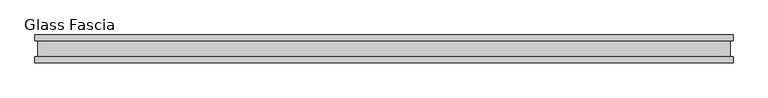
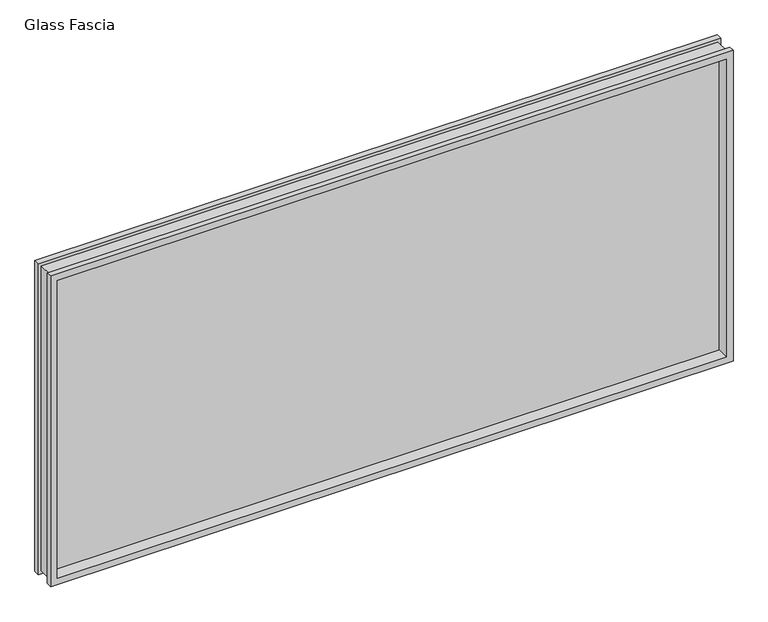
"""IFC4 building model written with IfcOpenShell, lengths in millimetres: proxy geometry, Panel-Fascia-Teknion-Altos-Glass : Glass Fascia."""

from ifc_helpers import new_model, si_unit, frame, origin, place, context, project, spatial, polyline, outline, extrude, faceted_brep, source, transform, mapped, element, save


def glass_fascia_b5f6f7ce(model_context):
    return source(origin(), model_context, "Body", "SolidModel", [
        faceted_brep([(1245.4046, -5.0827449, 1201.5625243), (1245.4046, 5.0827449, 1201.5625243), (1245.4046, 5.0827449, 17.6374757), (1245.4046, -5.0827449, 17.6374757), (1259.8670757, -28.8801202, 1216.025), (1259.8670757, -50.0558594, 1216.025), (1259.8670757, -50.0558594, 3.175), (1259.8670757, -28.8801202, 3.175), (1249.0420758, 28.2698798, 1205.2000001), (1249.0420758, -28.8801202, 1205.2000001), (1249.0420758, -28.8801202, 13.9999999), (1249.0420758, 28.2698798, 13.9999999), (1259.8670757, 50.0558594, 1216.025), (1259.8670757, 28.2698798, 1216.025), (1259.8670757, 28.2698798, 3.175), (1259.8670757, 50.0558594, 3.175), (-1245.4046, 5.0827449, 17.6374757), (-1245.4046, -5.0827449, 17.6374757), (-1259.8670757, -50.0558594, 3.175), (-1259.8670757, -28.8801202, 3.175), (-1249.0420758, -28.8801202, 13.9999999), (-1249.0420758, 28.2698798, 13.9999999), (-1259.8670757, 28.2698798, 3.175), (-1259.8670757, 50.0558594, 3.175), (-1245.4046, 5.0827449, 1201.5625243), (-1245.4046, -5.0827449, 1201.5625243), (-1259.8670757, -50.0558594, 1216.025), (-1259.8670757, -28.8801202, 1216.025), (-1249.0420758, -28.8801202, 1205.2000001), (-1249.0420758, 28.2698798, 1205.2000001), (-1259.8670757, 28.2698798, 1216.025), (-1259.8670757, 50.0558594, 1216.025), (1234.9144089, 50.0558594, 1191.0723332), (-1234.9144089, 50.0558594, 1191.0723332), (-1234.9144089, 50.0558594, 28.1276668), (1234.9144089, 50.0558594, 28.1276668), (1234.9144089, 5.0827449, 28.1276668), (-1234.9144089, 5.0827449, 28.1276668), (-1234.9144089, 5.0827449, 1191.0723332), (1234.9144089, 5.0827449, 1191.0723332), (1234.9144089, -5.0827449, 1191.0723332), (-1234.9144089, -5.0827449, 1191.0723332), (-1234.9144089, -5.0827449, 28.1276668), (1234.9144089, -5.0827449, 28.1276668), (1234.9144089, -50.0558594, 28.1276668), (-1234.9144089, -50.0558594, 28.1276668), (-1234.9144089, -50.0558594, 1191.0723332), (1234.9144089, -50.0558594, 1191.0723332)], [[[0, 1, 2, 3]], [[4, 5, 6, 7]], [[8, 9, 10, 11]], [[12, 13, 14, 15]], [[3, 2, 16, 17]], [[7, 6, 18, 19]], [[11, 10, 20, 21]], [[15, 14, 22, 23]], [[17, 16, 24, 25]], [[19, 18, 26, 27]], [[21, 20, 28, 29]], [[23, 22, 30, 31]], [[15, 23, 31, 12], [32, 33, 34, 35]], [[1, 24, 16, 2], [36, 37, 38, 39]], [[25, 24, 1, 0]], [[3, 17, 25, 0], [40, 41, 42, 43]], [[5, 26, 18, 6], [44, 45, 46, 47]], [[27, 26, 5, 4]], [[7, 19, 27, 4], [9, 28, 20, 10]], [[29, 28, 9, 8]], [[13, 30, 22, 14], [11, 21, 29, 8]], [[31, 30, 13, 12]], [[39, 32, 35, 36]], [[47, 40, 43, 44]], [[36, 35, 34, 37]], [[44, 43, 42, 45]], [[37, 34, 33, 38]], [[45, 42, 41, 46]], [[38, 33, 32, 39]], [[46, 41, 40, 47]]]),
        extrude(outline(polyline([(1245.4046, 2.9765625), (1245.4046, -2.9765625), (-1245.4046, -2.9765625), (-1245.4046, 2.9765625), (1245.4046, 2.9765625)])), frame((0.0, 0.0, 17.6374757), z_axis=(0.0, 0.0, 1.0), x_axis=(1.0, 0.0, 0.0)), (0.0, 0.0, 1.0), 1183.9250485),
    ])


if __name__ == "__main__":
    model = new_model("IFC4")
    model_context = context("Model", 3, world=origin())
    ifc_project = project(units=[si_unit("LENGTHUNIT", "METRE", prefix="MILLI")], contexts=[model_context])
    site = spatial("IfcSite", under=ifc_project)
    building = spatial("IfcBuilding", under=site)
    placement = place(None, origin())
    glass_fascia_shape = glass_fascia_b5f6f7ce(model_context)
    element("IfcBuildingElementProxy", 1, Name="Panel-Fascia-Teknion-Altos-Glass : Glass Fascia", ObjectType="Panel-Fascia-Teknion-Altos-Glass : Glass Fascia", at=placement, inside=building, context=model_context, shape_type="MappedRepresentation", body=[
        mapped(glass_fascia_shape, transform((0.0, 0.0, 0.0), x_axis=(1.0, 0.0, 0.0), y_axis=(0.0, 1.0, 0.0), z_axis=(0.0, 0.0, 1.0))),
    ])
    save(model, "model.ifc")
